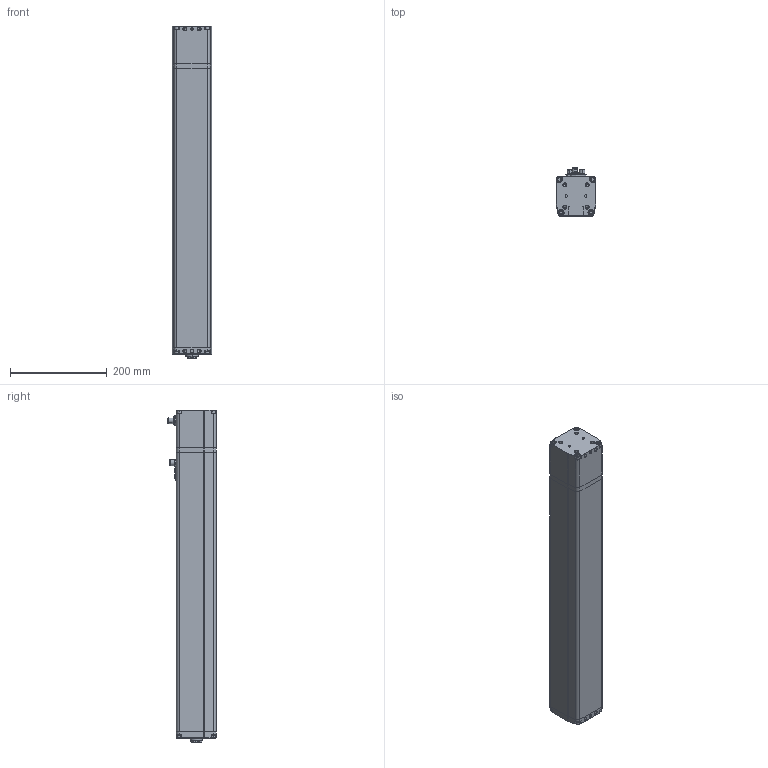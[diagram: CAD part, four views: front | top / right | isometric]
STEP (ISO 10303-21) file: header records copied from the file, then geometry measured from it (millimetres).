
FILE_DESCRIPTION (( 'STEP AP203' ), '1' );
FILE_NAME ('CTC-080-K__-____-_.step', '2023-09-29T09:39:45', ( '' ), ( '' ), 'SwSTEP 2.0', 'SolidWorks 2020', '' );
FILE_SCHEMA (( 'CONFIG_CONTROL_DESIGN' ));
Length unit declared in the file: millimetre
Products named in the file (4): CTC-080_Schubrohr_Hub 0500; CTC-080-K__-____-_; CTC-080_Aufsatz-I_M10; CTC-080_housing_Hub_0500_Bremse
Assembly tree (3 placements, depth 2):
  CTC-080-K__-____-_
    CTC-080_housing_Hub_0500_Bremse
    CTC-080_Schubrohr_Hub 0500
    CTC-080_Aufsatz-I_M10
Bounding box: 82 x 99.6 x 687 mm (x, y, z)
Volume: 3939302.6 mm3; surface area: 474776.1 mm2
Topology: 34 solids, 34 shells, 858 faces, 1912 edges, 1186 vertices
Faces by surface type: cylinder 338, plane 326, cone 102, torus 84, sphere 8
Entity records: 24154 total; most frequent: DIRECTION 4470, CARTESIAN_POINT 4156, ORIENTED_EDGE 3772, EDGE_CURVE 1886, AXIS2_PLACEMENT_3D 1768, VERTEX_POINT 1186, EDGE_LOOP 956, VECTOR 934
